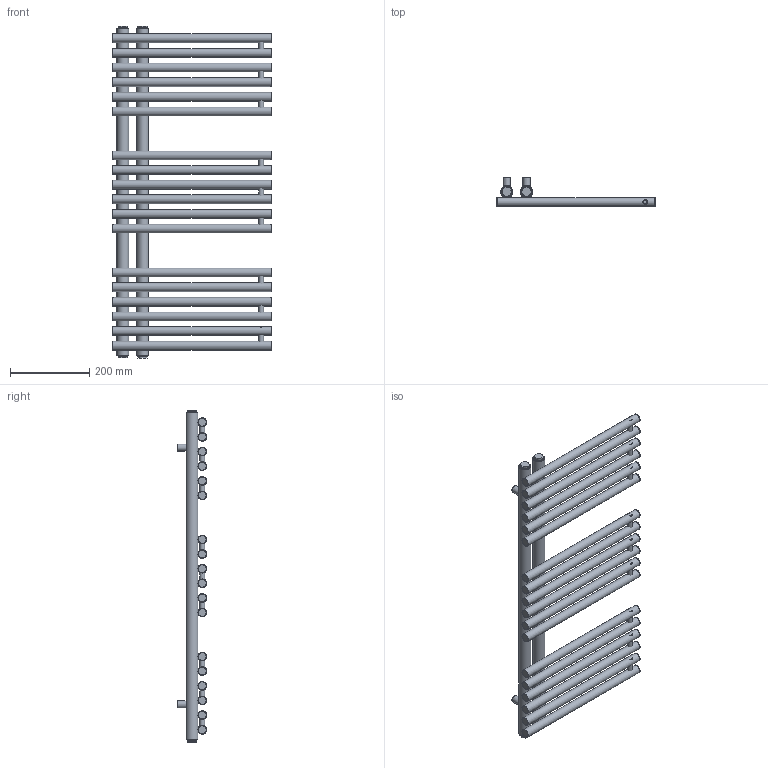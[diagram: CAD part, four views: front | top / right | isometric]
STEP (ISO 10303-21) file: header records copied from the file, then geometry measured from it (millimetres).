
FILE_DESCRIPTION(/* description */ (''),/* implementation_level */ '2;1');
FILE_NAME(/* name */ 'C:\Grzejniki\13DLUXRAD\łazienkowe\MODEL E\MODEL E 827x400.iam.stp',/* time_stamp */ '2016-06-28T17:35:22+02:00',/* author */ ('m.szydziak'),/* organization */ (''),/* preprocessor_version */ 'ST-DEVELOPER v16.5',/* originating_system */ 'Autodesk Inventor 2017',/* authorisation */ '');
FILE_SCHEMA (('AUTOMOTIVE_DESIGN { 1 0 10303 214 3 1 1 }'));
Length unit declared in the file: millimetre
Products named in the file (7): MODEL E 827x400; fi30x1,5x827; fi22x1,2x400; uchwyt stały; zaślepka fi30 G0,5inch; korek; %%c18x1,5x54
Assembly tree (41 placements, depth 2):
  MODEL E 827x400
    fi30x1,5x827  x2
    fi22x1,2x400  x18
    uchwyt stały  x4
    zaślepka fi30 G0,5inch  x4
    korek  x4
    %%c18x1,5x54  x9
Bounding box: 400 x 74 x 839 mm (x, y, z)
Volume: 841171.1 mm3; surface area: 1309779.3 mm2
Topology: 41 solids, 59 shells, 280 faces, 580 edges, 418 vertices
Faces by surface type: plane 166, cylinder 114
Full cylindrical faces by diameter (mm): 5 x36, 9 x9, 12 x9, 15 x4, 18 x4, 18.631 x4, 19.6 x18, 22 x18, 24 x4, 27 x6, 30 x2
Entity records: 3211 total; most frequent: CARTESIAN_POINT 1537, DIRECTION 296, ORIENTED_EDGE 222, AXIS2_PLACEMENT_3D 136, EDGE_LOOP 128, EDGE_CURVE 111, VERTEX_POINT 99, FACE_BOUND 73
